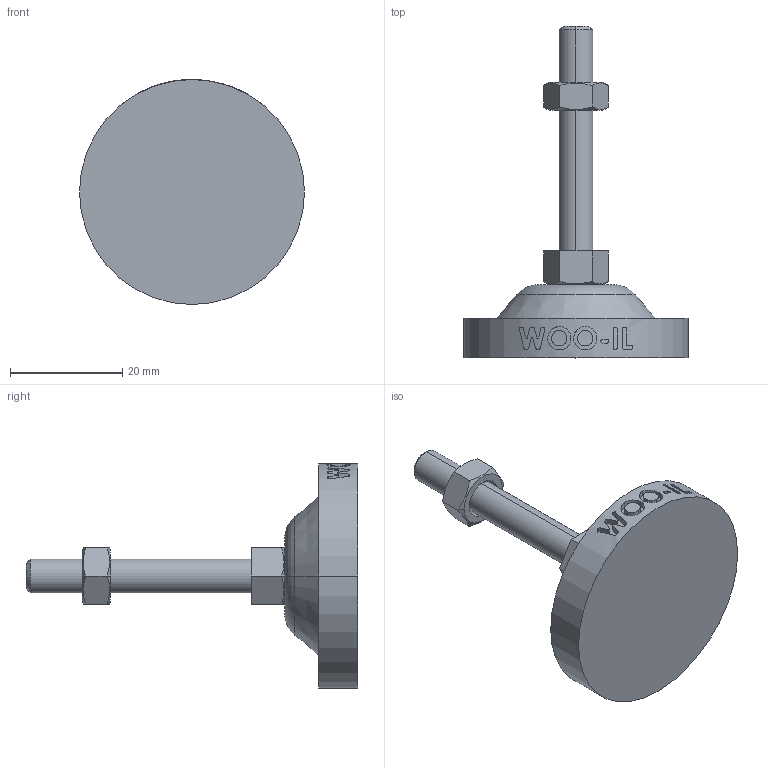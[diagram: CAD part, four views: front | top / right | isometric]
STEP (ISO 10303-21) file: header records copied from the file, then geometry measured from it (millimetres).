
FILE_DESCRIPTION (( 'STEP AP214' ), '1' );
FILE_NAME ('RB40-M6-40.step', '2021-01-18T05:47:49', ( '' ), ( '' ), 'SwSTEP 2.0', 'SolidWorks 2019', '' );
FILE_SCHEMA (( 'AUTOMOTIVE_DESIGN' ));
Length unit declared in the file: millimetre
Products named in the file (2): RB40-M6-40
Bounding box: 40 x 59 x 40 mm (x, y, z)
Volume: 12002.5 mm3; surface area: 5940.3 mm2
Topology: 2 solids, 3 shells, 128 faces, 317 edges, 206 vertices
Faces by surface type: plane 48, cylinder 42, bspline 18, cone 16, torus 4
Entity records: 5234 total; most frequent: CARTESIAN_POINT 2392, ORIENTED_EDGE 634, DIRECTION 479, EDGE_CURVE 317, VERTEX_POINT 206, AXIS2_PLACEMENT_3D 176, EDGE_LOOP 141, ADVANCED_FACE 128
